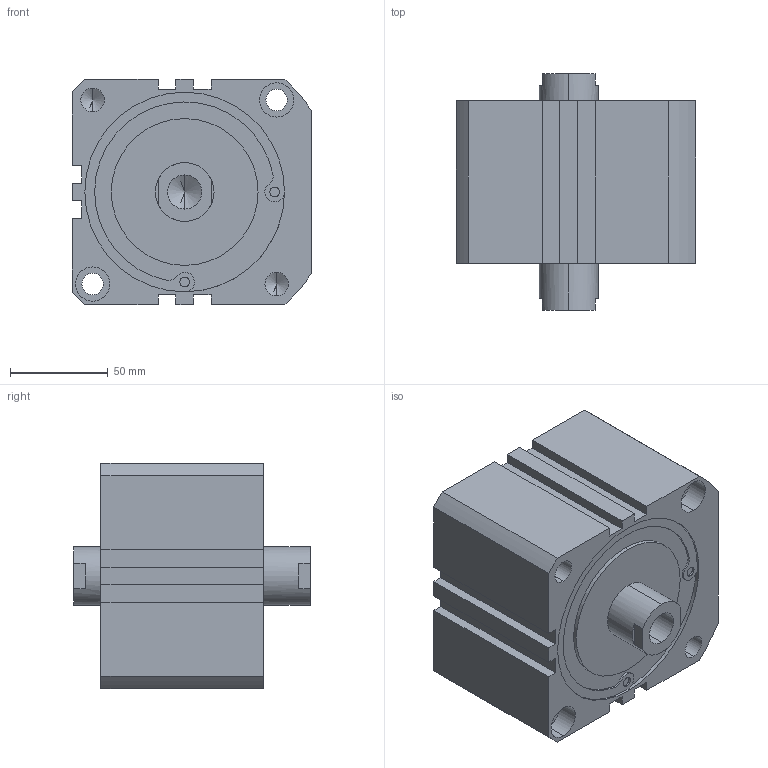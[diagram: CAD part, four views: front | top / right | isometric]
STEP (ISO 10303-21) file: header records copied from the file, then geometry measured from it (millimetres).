
FILE_DESCRIPTION (( 'STEP AP203' ), '1' );
FILE_NAME ('XG#7-100-10.STEP', '2016-05-24T02:01:26', ( '' ), ( '' ), 'SwSTEP 2.0', 'SolidWorks 2014', '' );
FILE_SCHEMA (( 'CONFIG_CONTROL_DESIGN' ));
Length unit declared in the file: millimetre
Products named in the file (1): XG#7-100-10
Bounding box: 122.5 x 121 x 115 mm (x, y, z)
Volume: 1082162.6 mm3; surface area: 91355.4 mm2
Topology: 1 solids, 1 shells, 142 faces, 354 edges, 222 vertices
Faces by surface type: cylinder 66, plane 56, cone 20
Entity records: 4237 total; most frequent: DIRECTION 774, CARTESIAN_POINT 703, ORIENTED_EDGE 676, EDGE_CURVE 338, AXIS2_PLACEMENT_3D 293, VERTEX_POINT 222, LINE 188, VECTOR 188
